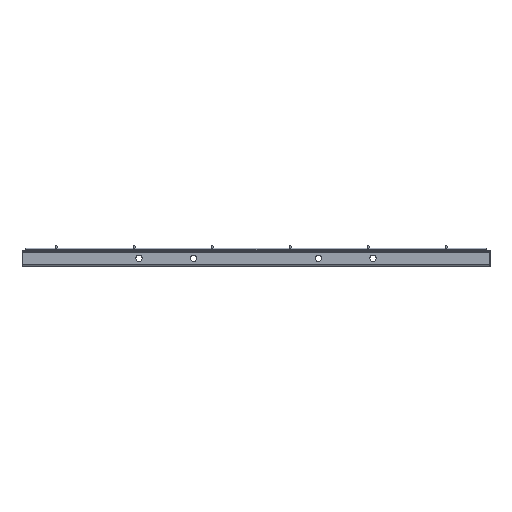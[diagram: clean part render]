
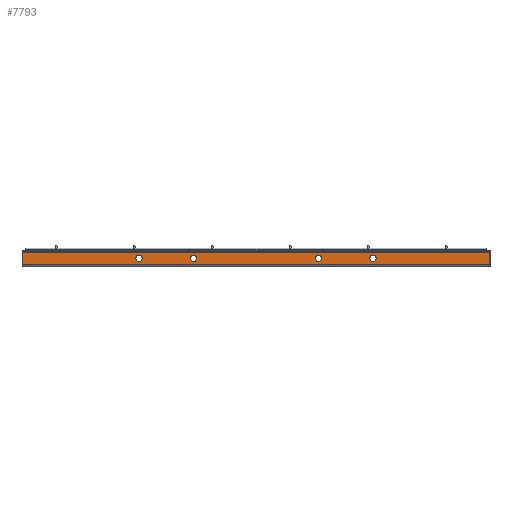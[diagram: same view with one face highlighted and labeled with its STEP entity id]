
A CAD part, left-side view. The second image highlights one B-rep face of the part: STEP entity #7793.
In plain terms, the highlighted planar face has unit normal (-1, 0, 0).
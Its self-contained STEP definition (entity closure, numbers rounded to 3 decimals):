
#350 = CARTESIAN_POINT ( 'NONE',  ( -500., 80., 4. ) ) ;
#488 = VERTEX_POINT ( 'NONE', #6878 ) ;
#590 = CARTESIAN_POINT ( 'NONE',  ( -500., 300., -8. ) ) ;
#668 = ORIENTED_EDGE ( 'NONE', *, *, #5207, .T. ) ;
#673 = CIRCLE ( 'NONE', #3208, 4. ) ;
#729 = AXIS2_PLACEMENT_3D ( 'NONE', #1199, #2433, #5652 ) ;
#755 = EDGE_CURVE ( 'NONE', #2037, #1837, #7290, .T. ) ;
#828 = VECTOR ( 'NONE', #5518, 1000. ) ;
#1033 = DIRECTION ( 'NONE',  ( 0., 0., -1. ) ) ;
#1062 = EDGE_CURVE ( 'NONE', #8017, #4898, #2510, .T. ) ;
#1197 = DIRECTION ( 'NONE',  ( 1., 0., 0. ) ) ;
#1199 = CARTESIAN_POINT ( 'NONE',  ( -500., -300., -8. ) ) ;
#1249 = ORIENTED_EDGE ( 'NONE', *, *, #2375, .T. ) ;
#1340 = DIRECTION ( 'NONE',  ( 0., 0., -1. ) ) ;
#1361 = CARTESIAN_POINT ( 'NONE',  ( -500., 300., -8. ) ) ;
#1388 = VERTEX_POINT ( 'NONE', #5009 ) ;
#1427 = EDGE_LOOP ( 'NONE', ( #2635, #6182 ) ) ;
#1641 = LINE ( 'NONE', #8004, #828 ) ;
#1646 = FACE_BOUND ( 'NONE', #6538, .T. ) ;
#1650 = DIRECTION ( 'NONE',  ( 1., 0., 0. ) ) ;
#1736 = FACE_BOUND ( 'NONE', #4390, .T. ) ;
#1837 = VERTEX_POINT ( 'NONE', #8265 ) ;
#1849 = CARTESIAN_POINT ( 'NONE',  ( -500., -80., 4. ) ) ;
#1867 = ORIENTED_EDGE ( 'NONE', *, *, #3943, .F. ) ;
#1916 = DIRECTION ( 'NONE',  ( 1., 0., 0. ) ) ;
#1944 = CIRCLE ( 'NONE', #2472, 4. ) ;
#2009 = VECTOR ( 'NONE', #6459, 1000. ) ;
#2037 = VERTEX_POINT ( 'NONE', #2838 ) ;
#2134 = VERTEX_POINT ( 'NONE', #5435 ) ;
#2375 = EDGE_CURVE ( 'NONE', #488, #5721, #8107, .T. ) ;
#2393 = PLANE ( 'NONE',  #729 ) ;
#2433 = DIRECTION ( 'NONE',  ( 1., 0., 0. ) ) ;
#2472 = AXIS2_PLACEMENT_3D ( 'NONE', #6956, #6406, #6323 ) ;
#2492 = CIRCLE ( 'NONE', #7175, 4. ) ;
#2510 = LINE ( 'NONE', #590, #7683 ) ;
#2571 = CARTESIAN_POINT ( 'NONE',  ( -500., 150., -4. ) ) ;
#2607 = VECTOR ( 'NONE', #7169, 1000. ) ;
#2634 = EDGE_CURVE ( 'NONE', #1388, #7776, #2492, .T. ) ;
#2635 = ORIENTED_EDGE ( 'NONE', *, *, #5182, .T. ) ;
#2713 = CARTESIAN_POINT ( 'NONE',  ( -500., -300., -8. ) ) ;
#2759 = VERTEX_POINT ( 'NONE', #3932 ) ;
#2838 = CARTESIAN_POINT ( 'NONE',  ( -500., -300., 8. ) ) ;
#3106 = ORIENTED_EDGE ( 'NONE', *, *, #3922, .T. ) ;
#3194 = AXIS2_PLACEMENT_3D ( 'NONE', #6090, #1650, #1033 ) ;
#3208 = AXIS2_PLACEMENT_3D ( 'NONE', #6258, #1197, #3758 ) ;
#3239 = LINE ( 'NONE', #5771, #2009 ) ;
#3244 = CARTESIAN_POINT ( 'NONE',  ( -500., -80., 0. ) ) ;
#3256 = EDGE_CURVE ( 'NONE', #2134, #2759, #6801, .T. ) ;
#3373 = ORIENTED_EDGE ( 'NONE', *, *, #3256, .T. ) ;
#3466 = EDGE_CURVE ( 'NONE', #5137, #7262, #7618, .T. ) ;
#3483 = CIRCLE ( 'NONE', #4671, 4. ) ;
#3726 = EDGE_CURVE ( 'NONE', #7776, #1388, #673, .T. ) ;
#3758 = DIRECTION ( 'NONE',  ( 0., 0., -1. ) ) ;
#3914 = CARTESIAN_POINT ( 'NONE',  ( -500., 150., 0. ) ) ;
#3922 = EDGE_CURVE ( 'NONE', #5721, #488, #3483, .T. ) ;
#3932 = CARTESIAN_POINT ( 'NONE',  ( -500., -150., -4. ) ) ;
#3943 = EDGE_CURVE ( 'NONE', #1837, #8017, #3239, .T. ) ;
#4318 = DIRECTION ( 'NONE',  ( 0., 0., -1. ) ) ;
#4390 = EDGE_LOOP ( 'NONE', ( #668, #3373 ) ) ;
#4541 = DIRECTION ( 'NONE',  ( 0., 0., -1. ) ) ;
#4621 = AXIS2_PLACEMENT_3D ( 'NONE', #4934, #7492, #4318 ) ;
#4638 = EDGE_LOOP ( 'NONE', ( #6793, #5501 ) ) ;
#4671 = AXIS2_PLACEMENT_3D ( 'NONE', #3914, #5898, #4541 ) ;
#4719 = EDGE_CURVE ( 'NONE', #2037, #4898, #1641, .T. ) ;
#4736 = ORIENTED_EDGE ( 'NONE', *, *, #4719, .T. ) ;
#4747 = CIRCLE ( 'NONE', #4621, 4. ) ;
#4838 = EDGE_LOOP ( 'NONE', ( #6851, #1867, #5633, #4736 ) ) ;
#4840 = CARTESIAN_POINT ( 'NONE',  ( -500., -80., -4. ) ) ;
#4898 = VERTEX_POINT ( 'NONE', #5265 ) ;
#4912 = FACE_BOUND ( 'NONE', #4638, .T. ) ;
#4934 = CARTESIAN_POINT ( 'NONE',  ( -500., -150., 0. ) ) ;
#5009 = CARTESIAN_POINT ( 'NONE',  ( -500., 80., -4. ) ) ;
#5064 = DIRECTION ( 'NONE',  ( 0., 0., 1. ) ) ;
#5080 = FACE_OUTER_BOUND ( 'NONE', #4838, .T. ) ;
#5137 = VERTEX_POINT ( 'NONE', #1849 ) ;
#5176 = CARTESIAN_POINT ( 'NONE',  ( -500., 80., 0. ) ) ;
#5182 = EDGE_CURVE ( 'NONE', #7262, #5137, #1944, .T. ) ;
#5207 = EDGE_CURVE ( 'NONE', #2759, #2134, #4747, .T. ) ;
#5265 = CARTESIAN_POINT ( 'NONE',  ( -500., 300., 8. ) ) ;
#5284 = DIRECTION ( 'NONE',  ( 1., 0., 0. ) ) ;
#5347 = DIRECTION ( 'NONE',  ( 0., 0., -1. ) ) ;
#5435 = CARTESIAN_POINT ( 'NONE',  ( -500., -150., 4. ) ) ;
#5501 = ORIENTED_EDGE ( 'NONE', *, *, #3726, .T. ) ;
#5518 = DIRECTION ( 'NONE',  ( 0., 1., 0. ) ) ;
#5633 = ORIENTED_EDGE ( 'NONE', *, *, #755, .F. ) ;
#5652 = DIRECTION ( 'NONE',  ( 0., 1., 0. ) ) ;
#5721 = VERTEX_POINT ( 'NONE', #2571 ) ;
#5728 = AXIS2_PLACEMENT_3D ( 'NONE', #3244, #5284, #7099 ) ;
#5771 = CARTESIAN_POINT ( 'NONE',  ( -500., -300., -8. ) ) ;
#5898 = DIRECTION ( 'NONE',  ( 1., 0., 0. ) ) ;
#6020 = CARTESIAN_POINT ( 'NONE',  ( -500., 150., 0. ) ) ;
#6090 = CARTESIAN_POINT ( 'NONE',  ( -500., -150., 0. ) ) ;
#6098 = AXIS2_PLACEMENT_3D ( 'NONE', #6020, #7204, #5347 ) ;
#6182 = ORIENTED_EDGE ( 'NONE', *, *, #3466, .T. ) ;
#6258 = CARTESIAN_POINT ( 'NONE',  ( -500., 80., 0. ) ) ;
#6323 = DIRECTION ( 'NONE',  ( 0., 0., -1. ) ) ;
#6406 = DIRECTION ( 'NONE',  ( 1., 0., 0. ) ) ;
#6459 = DIRECTION ( 'NONE',  ( 0., 1., 0. ) ) ;
#6538 = EDGE_LOOP ( 'NONE', ( #3106, #1249 ) ) ;
#6793 = ORIENTED_EDGE ( 'NONE', *, *, #2634, .T. ) ;
#6801 = CIRCLE ( 'NONE', #3194, 4. ) ;
#6851 = ORIENTED_EDGE ( 'NONE', *, *, #1062, .F. ) ;
#6878 = CARTESIAN_POINT ( 'NONE',  ( -500., 150., 4. ) ) ;
#6956 = CARTESIAN_POINT ( 'NONE',  ( -500., -80., 0. ) ) ;
#7099 = DIRECTION ( 'NONE',  ( 0., 0., -1. ) ) ;
#7169 = DIRECTION ( 'NONE',  ( 0., 0., -1. ) ) ;
#7175 = AXIS2_PLACEMENT_3D ( 'NONE', #5176, #1916, #1340 ) ;
#7204 = DIRECTION ( 'NONE',  ( 1., 0., 0. ) ) ;
#7262 = VERTEX_POINT ( 'NONE', #4840 ) ;
#7290 = LINE ( 'NONE', #2713, #2607 ) ;
#7492 = DIRECTION ( 'NONE',  ( 1., 0., 0. ) ) ;
#7618 = CIRCLE ( 'NONE', #5728, 4. ) ;
#7683 = VECTOR ( 'NONE', #5064, 1000. ) ;
#7776 = VERTEX_POINT ( 'NONE', #350 ) ;
#7793 = ADVANCED_FACE ( 'NONE', ( #1646, #4912, #8270, #1736, #5080 ), #2393, .F. ) ;
#8004 = CARTESIAN_POINT ( 'NONE',  ( -500., -300., 8. ) ) ;
#8017 = VERTEX_POINT ( 'NONE', #1361 ) ;
#8107 = CIRCLE ( 'NONE', #6098, 4. ) ;
#8265 = CARTESIAN_POINT ( 'NONE',  ( -500., -300., -8. ) ) ;
#8270 = FACE_BOUND ( 'NONE', #1427, .T. ) ;
